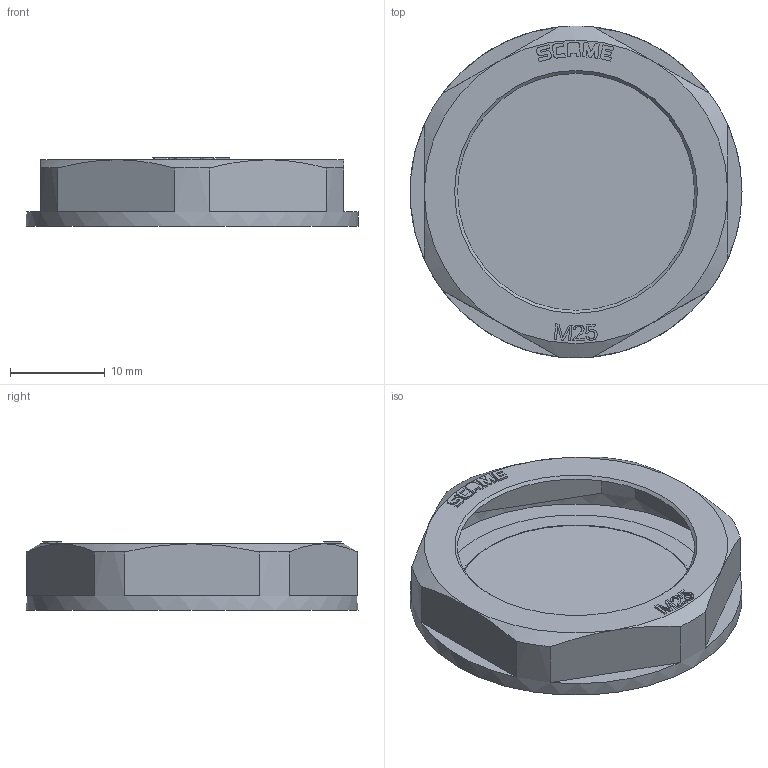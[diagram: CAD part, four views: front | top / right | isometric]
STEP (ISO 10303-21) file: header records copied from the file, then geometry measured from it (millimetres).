
FILE_DESCRIPTION(/* description */ (''),/* implementation_level */ '2;1');
FILE_NAME(/* name */ '4004447.stp',/* time_stamp */ '2016-09-26T09:16:59+02:00',/* author */ (''),/* organization */ (''),/* preprocessor_version */ 'ST-DEVELOPER v16',/* originating_system */ 'SIEMENS PLM Software NX 11.0',/* authorisation */ '');
FILE_SCHEMA (('AUTOMOTIVE_DESIGN { 1 0 10303 214 3 1 1 1 }'));
Length unit declared in the file: millimetre
Products named in the file (1): 4004447_LINKEDEXT_jt
Bounding box: 35 x 35 x 7.2 mm (x, y, z)
Surface area: 2377.2 mm2 (no closed solid volume)
Topology: 0 solids, 3 shells, 84 faces, 340 edges, 253 vertices
Faces by surface type: plane 67, cylinder 9, cone 4, extrusion 4
Full cylindrical faces by diameter (mm): 35 x1
Entity records: 3708 total; most frequent: CARTESIAN_POINT 1060, ORIENTED_EDGE 529, DIRECTION 451, EDGE_CURVE 336, VERTEX_POINT 252, VECTOR 197, LINE 193, AXIS2_PLACEMENT_3D 127
